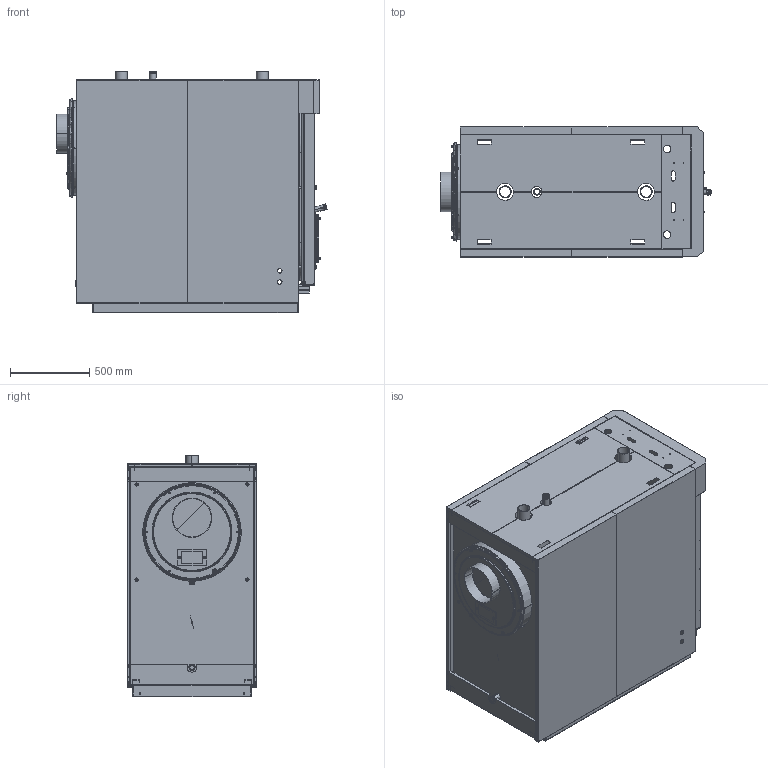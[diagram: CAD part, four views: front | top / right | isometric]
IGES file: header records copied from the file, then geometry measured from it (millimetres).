
Start section: START RECORD GO HERE.
Global section: file name: 20033207+Pannellatura x 3D.igs; native system: DASSAULT SYSTEMES CATIA V5 R20 - www.3ds.com; preprocessor: CATIA Version 5 Release 20 SP 6 ; author: Riello S.p.A.; organization: RIELLO-IT; date: 20170612.115324; units: millimetre
Bounding box: 1705.1 x 820 x 1525 mm (x, y, z)
Surface area: 26627552 mm2 (no closed solid volume)
Topology: 0 solids, 0 shells, 4757 faces, 22809 edges, 22767 vertices
Faces by surface type: plane 2496, revolution 2035, bspline 226
